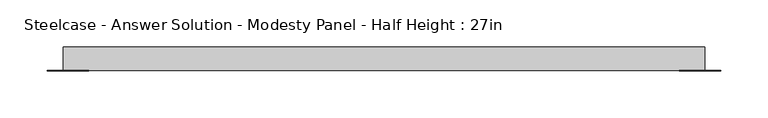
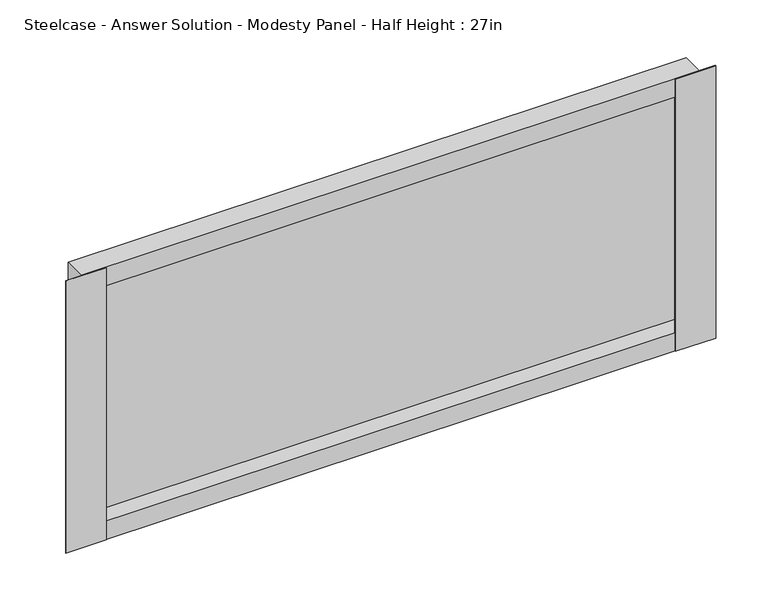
"""IFC4 building model written with IfcOpenShell, lengths in millimetres: furniture geometry, Steelcase - Answer Solution - Modesty Panel - Half Height : 27in."""

from ifc_helpers import new_model, si_unit, frame, origin, place, context, project, spatial, polyline, outline, extrude, faceted_brep, source, transform, mapped, element, save


def steelcase_answer_solution_modesty_panel_half_height_27in_29186daf(model_context):
    return source(origin(), model_context, "Body", "SolidModel", [
        extrude(outline(polyline([(1229.3400478, -14.2668826), (1229.3400478, -15.0593624), (1184.9248254, -15.0593624), (1184.9248254, -14.2668826), (1229.3400478, -14.2668826)])), frame((0.0, 0.0, 17.653), z_axis=(0.0, 0.0, 1.0), x_axis=(1.0, 0.0, 0.0)), (0.0, 0.0, 1.0), 317.5),
        extrude(outline(polyline([(556.9673392, -14.2668826), (556.9673392, -15.0593624), (512.5520826, -15.0593624), (512.5520826, -14.2668826), (556.9673392, -14.2668826)])), frame((0.0, 0.0, 17.653), z_axis=(0.0, 0.0, 1.0), x_axis=(1.0, 0.0, 0.0)), (0.0, 0.0, 1.0), 317.5),
        faceted_brep([(530.0780827, 10.9045177, 17.653), (530.0780827, -14.2668826, 17.653), (530.0780827, -14.2668826, 335.153), (530.0780827, 10.9045177, 335.153), (1211.8140827, -14.2668826, 17.653), (1211.8140827, 10.9045177, 17.653), (1211.8140827, 10.9045177, 335.153), (1211.8140827, -14.2668826, 335.153), (1211.0216165, 4.7831174, 39.243), (530.8705628, 4.7831174, 39.243), (530.8705628, -14.2668826, 39.243), (1211.0216165, -14.2668826, 39.243), (530.8705628, -14.2668826, 313.563), (1211.0216165, -14.2668826, 313.563), (530.8705628, 4.7831174, 313.563), (1211.0216165, 4.7831174, 313.563)], [[[0, 1, 2, 3]], [[4, 5, 6, 7]], [[8, 9, 10, 11]], [[0, 3, 6, 5]], [[4, 1, 0, 5]], [[2, 1, 4, 7], [10, 12, 13, 11]], [[3, 2, 7, 6]], [[14, 15, 13, 12]], [[9, 8, 15, 14]], [[12, 10, 9, 14]], [[11, 13, 15, 8]]]),
    ])


if __name__ == "__main__":
    model = new_model("IFC4")
    model_context = context("Model", 3, world=origin())
    ifc_project = project(units=[si_unit("LENGTHUNIT", "METRE", prefix="MILLI")], contexts=[model_context])
    site = spatial("IfcSite", under=ifc_project)
    building = spatial("IfcBuilding", under=site)
    placement = place(None, origin())
    steelcase_answer_solution_modesty_panel_half_height_27in_shape = steelcase_answer_solution_modesty_panel_half_height_27in_29186daf(model_context)
    element("IfcFurniture", 1, ObjectType="Steelcase - Answer Solution - Modesty Panel - Half Height : 27in", at=placement, inside=building, context=model_context, shape_type="MappedRepresentation", body=[
        mapped(steelcase_answer_solution_modesty_panel_half_height_27in_shape, transform((0.0, 0.0, 0.0), x_axis=(1.0, 0.0, 0.0), y_axis=(0.0, 1.0, 0.0), z_axis=(0.0, 0.0, 1.0))),
    ])
    save(model, "model.ifc")
